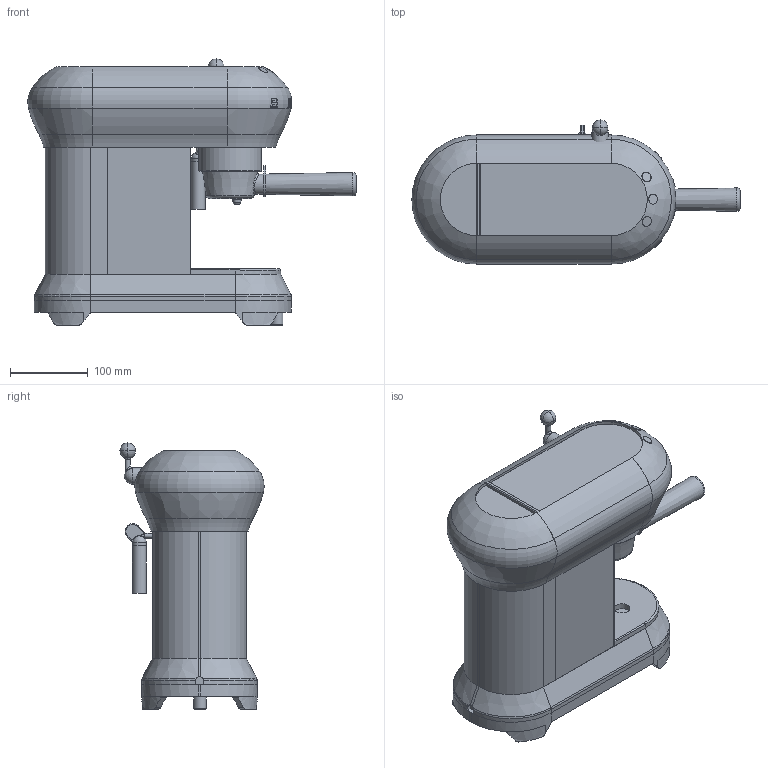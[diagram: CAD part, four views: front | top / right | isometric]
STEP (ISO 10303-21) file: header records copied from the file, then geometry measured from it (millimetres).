
FILE_DESCRIPTION(/* description */ (''),/* implementation_level */ '2;1');
FILE_NAME(/* name */ 'macchina caffe ecf01.stp',/* time_stamp */ '2018-09-07T17:22:33+02:00',/* author */ (''),/* organization */ (''),/* preprocessor_version */ 'ST-DEVELOPER v16',/* originating_system */ 'SIEMENS PLM Software NX 11.0',/* authorisation */ '');
FILE_SCHEMA (('AUTOMOTIVE_DESIGN { 1 0 10303 214 3 1 1 1 }'));
Length unit declared in the file: millimetre
Products named in the file (1): gobb1FA4D4A7obdz
Bounding box: 421.35 x 184.93 x 341.7 mm (x, y, z)
Volume: 9685412.5 mm3; surface area: 662555.4 mm2
Topology: 25 solids, 25 shells, 345 faces, 804 edges, 504 vertices
Faces by surface type: plane 181, cylinder 84, bspline 27, torus 22, sphere 12, extrusion 10, cone 9
Full cylindrical faces by diameter (mm): 6 x1, 6.5 x1, 13 x3, 16 x1, 18 x2, 20.3 x2, 21.2 x1, 26.1 x1, 80.5 x1
Entity records: 11454 total; most frequent: CARTESIAN_POINT 3936, ORIENTED_EDGE 1504, DIRECTION 1453, EDGE_CURVE 752, AXIS2_PLACEMENT_3D 571, VERTEX_POINT 487, EDGE_LOOP 381, ADVANCED_FACE 345
